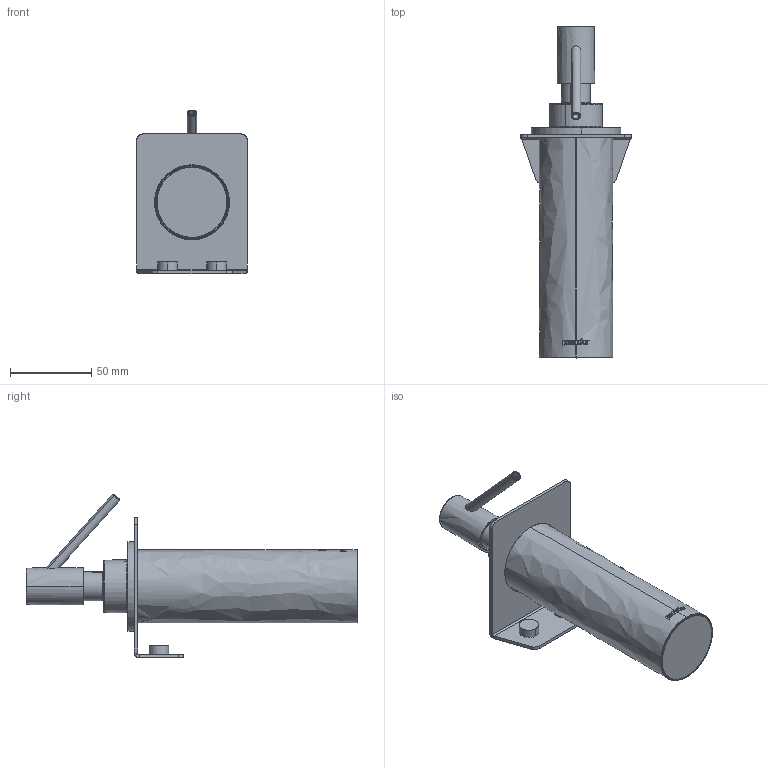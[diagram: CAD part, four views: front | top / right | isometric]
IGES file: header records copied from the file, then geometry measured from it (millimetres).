
Start section: SolidWorks IGES file using analytic representation for surfaces
Global section: file name: G:\Projects\New project\For Marketing\IGS\IGS\2015-12-11\367805002VW.IGS; native system: SolidWorks 2010; preprocessor: SolidWorks 2010; author: linda; date: 151203.153917; units: millimetre
Bounding box: 68 x 203.9 x 100.63 mm (x, y, z)
Surface area: 47458.6 mm2 (no closed solid volume)
Topology: 0 solids, 0 shells, 98 faces, 1936 edges, 1935 vertices
Faces by surface type: revolution 53, bspline 45
